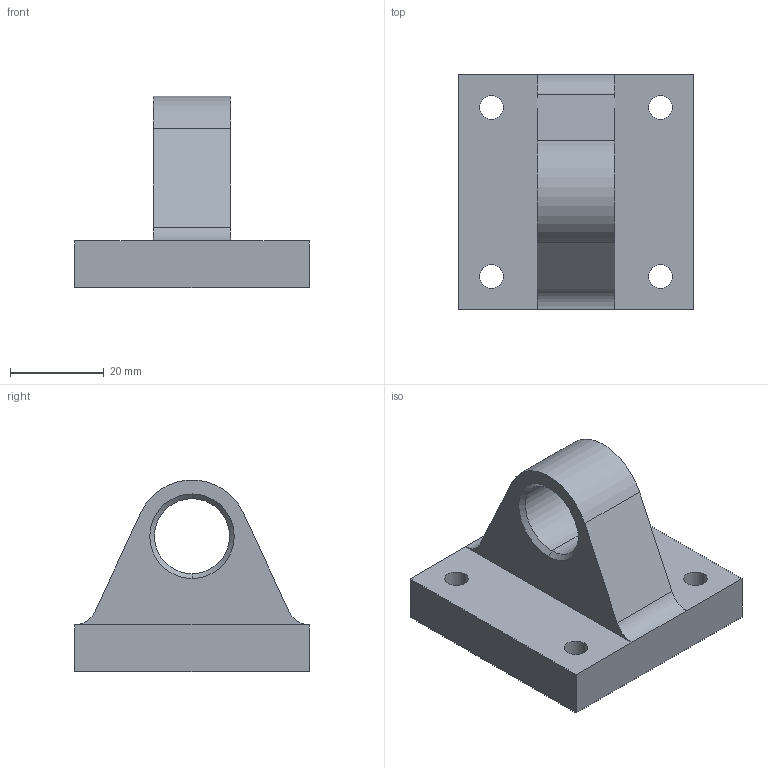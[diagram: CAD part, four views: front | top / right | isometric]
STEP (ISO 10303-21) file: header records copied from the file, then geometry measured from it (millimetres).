
FILE_DESCRIPTION (( 'STEP AP214' ), '1' );
FILE_NAME ('嘐_岗宿轿倮薨.STEP', '2024-05-07T00:19:59', ( '' ), ( '' ), 'SwSTEP 2.0', 'SolidWorks 2023', '' );
FILE_SCHEMA (( 'AUTOMOTIVE_DESIGN' ));
Length unit declared in the file: millimetre
Products named in the file (1): ⑥_ｸﾚﾋﾞｽﾎﾙﾀﾞｰ
Bounding box: 50 x 50 x 40.85 mm (x, y, z)
Volume: 35691 mm3; surface area: 10214 mm2
Topology: 1 solids, 1 shells, 28 faces, 70 edges, 44 vertices
Faces by surface type: cylinder 13, plane 11, cone 4
Entity records: 883 total; most frequent: DIRECTION 158, CARTESIAN_POINT 143, ORIENTED_EDGE 140, EDGE_CURVE 70, AXIS2_PLACEMENT_3D 59, VERTEX_POINT 44, VECTOR 40, LINE 40
